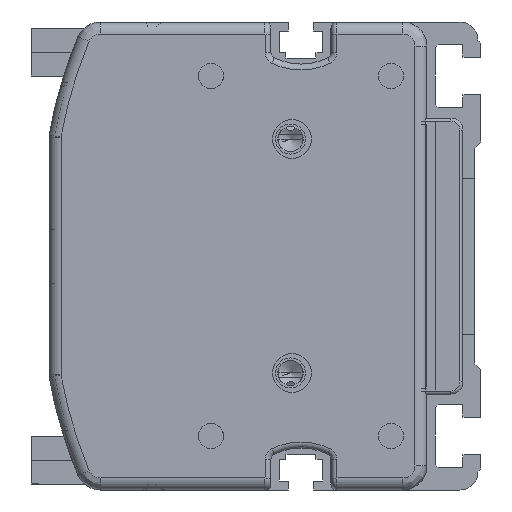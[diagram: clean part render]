
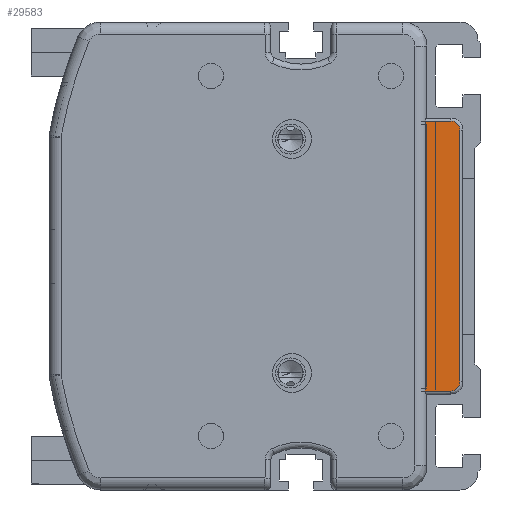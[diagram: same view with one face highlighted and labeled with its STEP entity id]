
A CAD part, left-side view. The second image highlights one B-rep face of the part: STEP entity #29583.
In plain terms, the highlighted planar face has unit normal (-1, 0, 0).
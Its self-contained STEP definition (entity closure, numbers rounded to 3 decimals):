
#24132=DIRECTION('',(0.,0.,-1.));
#24133=VECTOR('',#24132,45.);
#24134=CARTESIAN_POINT('',(-2.,10.268,22.5));
#24135=LINE('',#24134,#24133);
#24167=CARTESIAN_POINT('',(-2.,6.,21.));
#24168=DIRECTION('',(1.,0.,0.));
#24169=DIRECTION('',(0.,0.,1.));
#24170=AXIS2_PLACEMENT_3D('',#24167,#24168,#24169);
#24172=CARTESIAN_POINT('',(-2.,6.,-21.));
#24173=DIRECTION('',(1.,0.,0.));
#24174=DIRECTION('',(0.,-1.,0.));
#24175=AXIS2_PLACEMENT_3D('',#24172,#24173,#24174);
#24181=DIRECTION('',(0.,-1.,0.));
#24182=VECTOR('',#24181,4.268);
#24183=CARTESIAN_POINT('',(-2.,10.268,-22.5));
#24184=LINE('',#24183,#24182);
#24717=DIRECTION('',(0.,0.,1.));
#24718=VECTOR('',#24717,42.);
#24719=CARTESIAN_POINT('',(-2.,4.5,-21.));
#24720=LINE('',#24719,#24718);
#24740=DIRECTION('',(0.,1.,0.));
#24741=VECTOR('',#24740,4.268);
#24742=CARTESIAN_POINT('',(-2.,6.,22.5));
#24743=LINE('',#24742,#24741);
#28030=CARTESIAN_POINT('',(-2.,10.268,22.5));
#28031=CARTESIAN_POINT('',(-2.,10.268,-22.5));
#28032=VERTEX_POINT('',#28030);
#28033=VERTEX_POINT('',#28031);
#28043=CARTESIAN_POINT('',(-2.,6.,-22.5));
#28044=VERTEX_POINT('',#28043);
#28045=CARTESIAN_POINT('',(-2.,4.5,-21.));
#28046=VERTEX_POINT('',#28045);
#28047=CARTESIAN_POINT('',(-2.,4.5,21.));
#28048=VERTEX_POINT('',#28047);
#28049=CARTESIAN_POINT('',(-2.,6.,
22.5));
#28050=VERTEX_POINT('',#28049);
#29565=CARTESIAN_POINT('',(-2.,7.384,0.));
#29566=DIRECTION('',(1.,0.,0.));
#29567=DIRECTION('',(0.,0.,-1.));
#29568=AXIS2_PLACEMENT_3D('',#29565,#29566,#29567);
#29569=PLANE('',#29568);
#29571=ORIENTED_EDGE('',*,*,#29570,.F.);
#29572=ORIENTED_EDGE('',*,*,#29544,.F.);
#29574=ORIENTED_EDGE('',*,*,#29573,.F.);
#29576=ORIENTED_EDGE('',*,*,#29575,.T.);
#29578=ORIENTED_EDGE('',*,*,#29577,.F.);
#29580=ORIENTED_EDGE('',*,*,#29579,.T.);
#29581=EDGE_LOOP('',(#29571,#29572,#29574,#29576,#29578,#29580));
#29582=FACE_OUTER_BOUND('',#29581,.F.);
#29583=ADVANCED_FACE('',(#29582),#29569,.F.);
#24171=CIRCLE('',#24170,1.5);
#24176=CIRCLE('',#24175,1.5);
#29544=EDGE_CURVE('',#28032,#28033,#24135,.T.);
#29570=EDGE_CURVE('',#28033,#28044,#24184,.T.);
#29573=EDGE_CURVE('',#28050,#28032,#24743,.T.);
#29575=EDGE_CURVE('',#28050,#28048,#24171,.T.);
#29577=EDGE_CURVE('',#28046,#28048,#24720,.T.);
#29579=EDGE_CURVE('',#28046,#28044,#24176,.T.);
